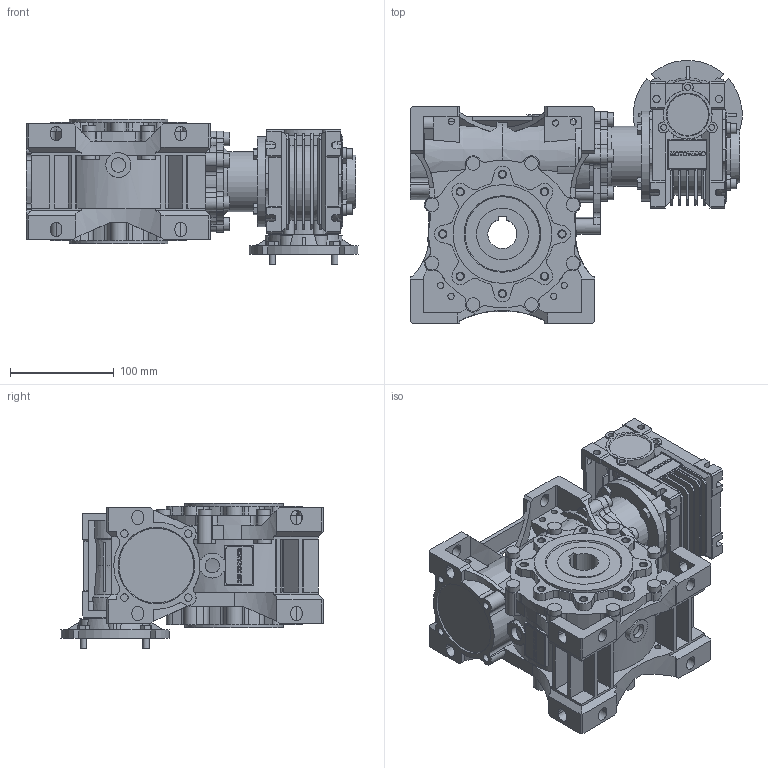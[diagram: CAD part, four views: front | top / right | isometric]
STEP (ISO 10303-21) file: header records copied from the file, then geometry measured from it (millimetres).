
FILE_DESCRIPTION(/* description */ ('STEP AP214'),/* implementation_level */ '2;1');
FILE_NAME(/* name */ 'NMRVP-NMRVP 040-075 100 (10x10) AS1 105x14 18 NO 28 NO NO - - NO - - - NO NO - --(--------)',/* time_stamp */ '2024-10-24T10:40:40+02:00',/* author */ ('License CC BY-ND 4.0'),/* organization */ ('CADENAS'),/* preprocessor_version */ 'ST-DEVELOPER v19.3',/* originating_system */ 'PARTsolutions',/* authorisation */ ' ');
FILE_SCHEMA (('AUTOMOTIVE_DESIGN {1 0 10303 214 3 1 1}'));
Products named in the file (11): NMRVP-NMRVP 040-075 100 (10x10) AS1 105x14 18 NO 28 NO NO - - NO - - 
- NO NO - --(--------); W.075.01.M; 075-28 (120); W.075.14.24.M-p; 040-075-TRA; W.040.01.M; 040-18 (78); VB 040-14 (14)-p; 4071 B14; Corona 40-p; 75-50
Assembly tree (10 placements, depth 2):
  NMRVP-NMRVP 040-075 100 (10x10) AS1 105x14 18 NO 28 NO NO - - NO - - 
- NO NO - --(--------)
    W.075.01.M
    075-28 (120)
    W.075.14.24.M-p
    040-075-TRA
    W.040.01.M
    040-18 (78)
    VB 040-14 (14)-p
    4071 B14
    Corona 40-p
    75-50
Bounding box: 319.83 x 253.33 x 140 mm (x, y, z)
Volume: 3557416.1 mm3; surface area: 564510.5 mm2
Topology: 10 solids, 16 shells, 2225 faces, 6033 edges, 3965 vertices
Faces by surface type: plane 1409, cylinder 711, cone 101, torus 4
Full cylindrical faces by diameter (mm): 4.917 x8, 5.55 x3, 6 x18, 6.647 x16, 7 x6, 7.26 x12, 10 x11, 10.8 x4, 11 x6, 13 x14, 14 x3, 16 x1, 23 x2, 24 x1, 28 x1, 29 x1, 30 x2, 31 x1, 35 x1, 36 x1, 40 x2, 42 x1, 47 x1, 48 x1, 50 x3, 58 x1, 60 x3, 68 x4, 70 x1, 75 x1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
Entity records: 84996 total; most frequent: CARTESIAN_POINT 13149, DIRECTION 11809, ORIENTED_EDGE 11632, EDGE_CURVE 5816, AXIS2_PLACEMENT_3D 4083, VERTEX_POINT 3932, LINE 3643, VECTOR 3643
